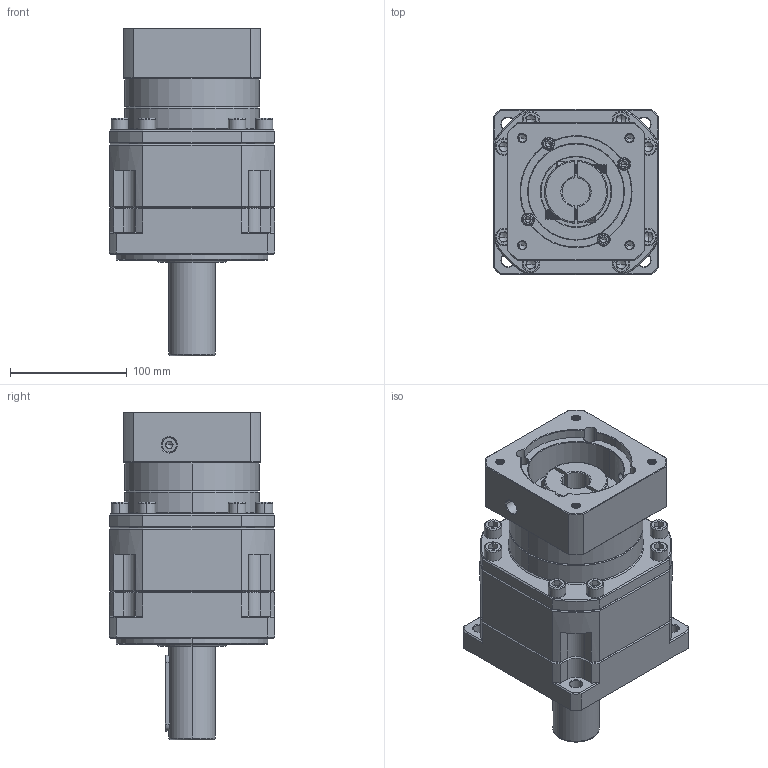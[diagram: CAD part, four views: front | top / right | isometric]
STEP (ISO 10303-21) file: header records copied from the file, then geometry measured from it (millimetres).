
FILE_DESCRIPTION (( 'STEP AP214' ), '1' );
FILE_NAME ('ZB142A-D40-L2-P2-24-95-130-M8.step', '2023-09-02T02:50:48', ( '' ), ( '' ), 'SwSTEP 2.0', 'SolidWorks 2016', '' );
FILE_SCHEMA (( 'AUTOMOTIVE_DESIGN' ));
Length unit declared in the file: millimetre
Products named in the file (1): ZB142A-D40-L2-P2-24-95-130-M8
Bounding box: 142 x 142 x 280.7 mm (x, y, z)
Volume: 2957801.5 mm3; surface area: 238999.7 mm2
Topology: 6 solids, 6 shells, 2549 faces, 6676 edges, 4249 vertices
Faces by surface type: plane 1205, cylinder 493, bspline 405, cone 388, torus 58
Entity records: 135987 total; most frequent: CARTESIAN_POINT 48530, ORIENTED_EDGE 13244, DIRECTION 10847, EDGE_CURVE 6622, VERTEX_POINT 4249, VECTOR 4213, LINE 4213, AXIS2_PLACEMENT_3D 3317
